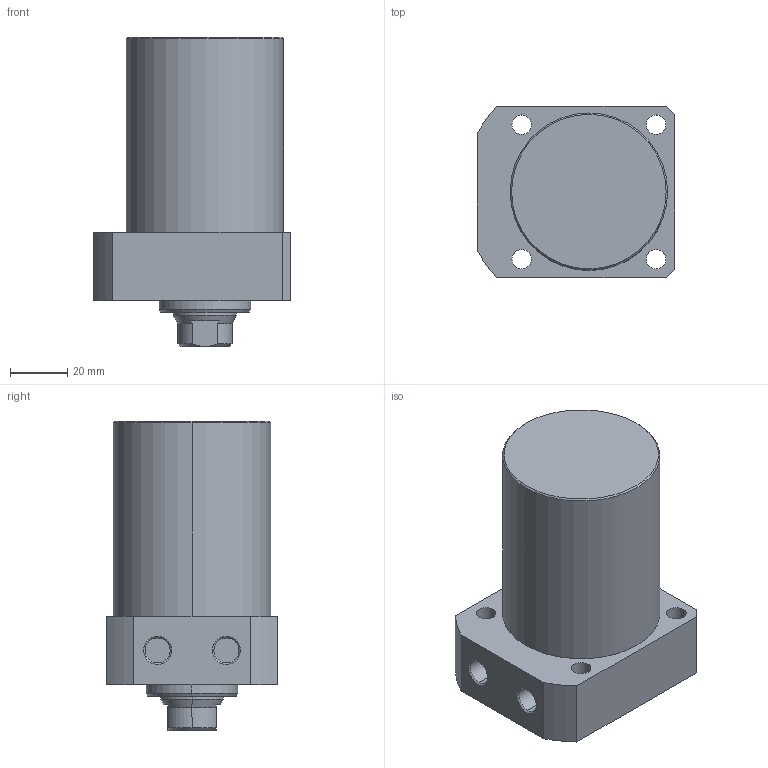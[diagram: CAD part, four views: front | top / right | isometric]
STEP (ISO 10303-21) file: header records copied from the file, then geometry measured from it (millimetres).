
FILE_DESCRIPTION (( 'STEP AP203' ), '1' );
FILE_NAME ('CLLR-055CA-055.STEP', '2019-12-19T07:28:40', ( '' ), ( '' ), 'SwSTEP 2.0', 'SolidWorks 2015', '' );
FILE_SCHEMA (( 'CONFIG_CONTROL_DESIGN' ));
Length unit declared in the file: millimetre
Products named in the file (1): CLLR-055CA-055
Bounding box: 69 x 60 x 108 mm (x, y, z)
Volume: 259193.2 mm3; surface area: 29931.6 mm2
Topology: 1 solids, 1 shells, 65 faces, 151 edges, 94 vertices
Faces by surface type: cylinder 29, plane 19, cone 17
Entity records: 1967 total; most frequent: CARTESIAN_POINT 349, DIRECTION 348, ORIENTED_EDGE 298, EDGE_CURVE 149, AXIS2_PLACEMENT_3D 141, VERTEX_POINT 94, EDGE_LOOP 81, CIRCLE 75
